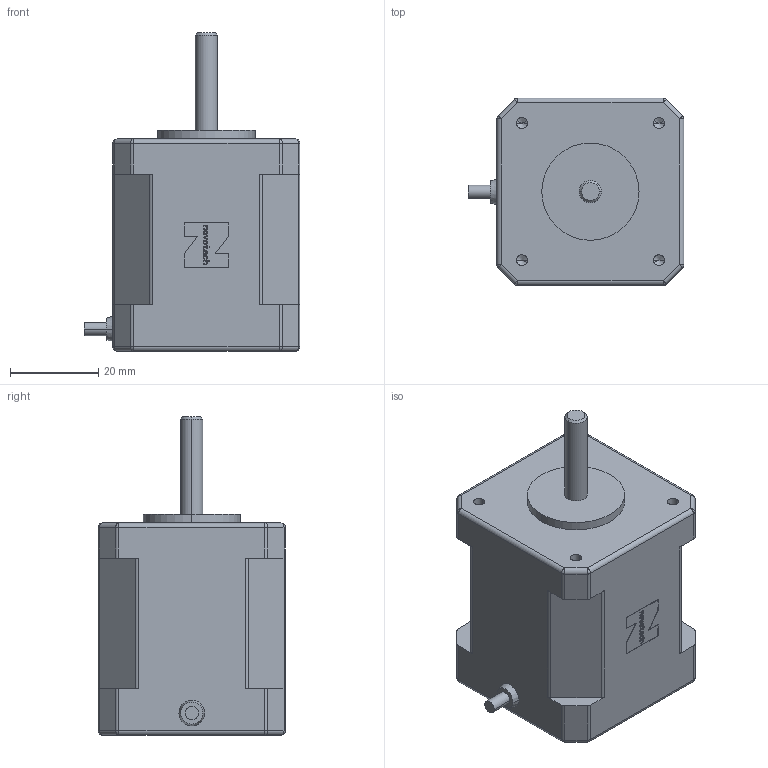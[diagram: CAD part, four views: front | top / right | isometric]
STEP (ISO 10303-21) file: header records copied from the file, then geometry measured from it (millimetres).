
FILE_DESCRIPTION (( 'STEP AP203' ), '1' );
FILE_NAME ('42HS03.STEP', '2015-11-18T01:30:56', ( '微软用户' ), ( '微软中国' ), 'SwSTEP 2.0', 'SolidWorks 2014', '' );
FILE_SCHEMA (( 'CONFIG_CONTROL_DESIGN' ));
Length unit declared in the file: millimetre
Products named in the file (1): 42HS03
Bounding box: 48.8 x 42.4 x 72 mm (x, y, z)
Volume: 81895.9 mm3; surface area: 11634.7 mm2
Topology: 1 solids, 1 shells, 219 faces, 553 edges, 340 vertices
Faces by surface type: plane 93, cylinder 54, bspline 44, sphere 16, cone 12
Entity records: 9022 total; most frequent: CARTESIAN_POINT 3997, ORIENTED_EDGE 1074, DIRECTION 915, EDGE_CURVE 537, VERTEX_POINT 340, LINE 335, VECTOR 335, AXIS2_PLACEMENT_3D 290
